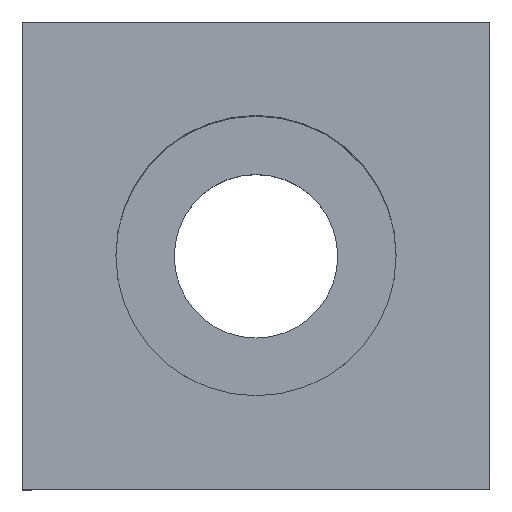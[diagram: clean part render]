
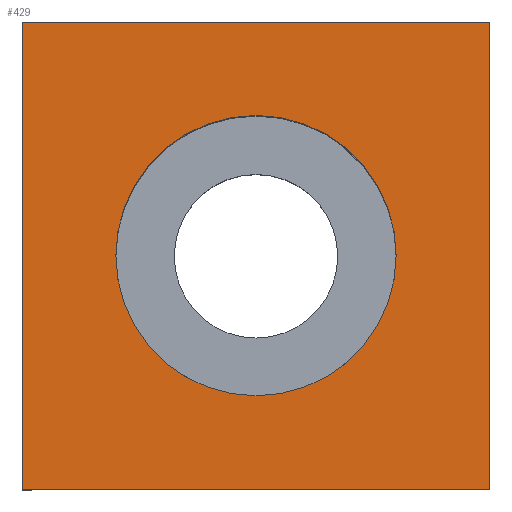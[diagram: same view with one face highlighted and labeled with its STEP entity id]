
A CAD part, top view. The second image highlights one B-rep face of the part: STEP entity #429.
In plain terms, the highlighted planar face has unit normal (0, 0, 1).
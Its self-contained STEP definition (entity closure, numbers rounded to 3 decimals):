
#5 = VECTOR ( 'NONE', #188, 1000. ) ;
#8 = CARTESIAN_POINT ( 'NONE',  ( 322.437, 336.497, 20. ) ) ;
#30 = CARTESIAN_POINT ( 'NONE',  ( 302.437, 336.497, 20. ) ) ;
#42 = CARTESIAN_POINT ( 'NONE',  ( 322.437, 316.497, 20. ) ) ;
#96 = DIRECTION ( 'NONE',  ( 0., 0., -1. ) ) ;
#144 = EDGE_CURVE ( 'NONE', #250, #862, #513, .T. ) ;
#188 = DIRECTION ( 'NONE',  ( -1., 0., 0. ) ) ;
#218 = ORIENTED_EDGE ( 'NONE', *, *, #710, .T. ) ;
#250 = VERTEX_POINT ( 'NONE', #861 ) ;
#264 = CARTESIAN_POINT ( 'NONE',  ( 318.437, 326.497, 20. ) ) ;
#312 = ORIENTED_EDGE ( 'NONE', *, *, #872, .F. ) ;
#315 = DIRECTION ( 'NONE',  ( 1., 0., 0. ) ) ;
#320 = CARTESIAN_POINT ( 'NONE',  ( 306.437, 326.497, 20. ) ) ;
#328 = VERTEX_POINT ( 'NONE', #264 ) ;
#344 = CARTESIAN_POINT ( 'NONE',  ( 312.437, 326.497, 20. ) ) ;
#353 = FACE_OUTER_BOUND ( 'NONE', #576, .T. ) ;
#374 = LINE ( 'NONE', #682, #877 ) ;
#390 = DIRECTION ( 'NONE',  ( 1., 0., 0. ) ) ;
#396 = DIRECTION ( 'NONE',  ( 0., -1., 0. ) ) ;
#429 = ADVANCED_FACE ( 'NONE', ( #353, #702 ), #864, .T. ) ;
#437 = EDGE_CURVE ( 'NONE', #894, #250, #534, .T. ) ;
#440 = LINE ( 'NONE', #42, #5 ) ;
#446 = ORIENTED_EDGE ( 'NONE', *, *, #744, .T. ) ;
#453 = CARTESIAN_POINT ( 'NONE',  ( 302.437, 316.497, 20. ) ) ;
#477 = DIRECTION ( 'NONE',  ( 1., 0., 0. ) ) ;
#513 = LINE ( 'NONE', #8, #668 ) ;
#534 = LINE ( 'NONE', #833, #853 ) ;
#539 = CARTESIAN_POINT ( 'NONE',  ( 312.437, 326.497, 20. ) ) ;
#541 = VERTEX_POINT ( 'NONE', #320 ) ;
#560 = DIRECTION ( 'NONE',  ( 0., 0., 1. ) ) ;
#576 = EDGE_LOOP ( 'NONE', ( #446, #312, #879, #585 ) ) ;
#585 = ORIENTED_EDGE ( 'NONE', *, *, #437, .F. ) ;
#588 = AXIS2_PLACEMENT_3D ( 'NONE', #759, #686, #477 ) ;
#616 = DIRECTION ( 'NONE',  ( 1., 0., 0. ) ) ;
#668 = VECTOR ( 'NONE', #747, 1000. ) ;
#682 = CARTESIAN_POINT ( 'NONE',  ( 302.437, 326.497, 20. ) ) ;
#686 = DIRECTION ( 'NONE',  ( 0., 0., -1. ) ) ;
#702 = FACE_BOUND ( 'NONE', #786, .T. ) ;
#710 = EDGE_CURVE ( 'NONE', #328, #541, #774, .T. ) ;
#723 = CARTESIAN_POINT ( 'NONE',  ( 322.437, 316.497, 20. ) ) ;
#729 = EDGE_CURVE ( 'NONE', #541, #328, #733, .T. ) ;
#733 = CIRCLE ( 'NONE', #911, 6. ) ;
#738 = ORIENTED_EDGE ( 'NONE', *, *, #729, .T. ) ;
#744 = EDGE_CURVE ( 'NONE', #894, #796, #374, .T. ) ;
#747 = DIRECTION ( 'NONE',  ( 0., -1., 0. ) ) ;
#759 = CARTESIAN_POINT ( 'NONE',  ( 312.437, 326.497, 20. ) ) ;
#774 = CIRCLE ( 'NONE', #588, 6. ) ;
#786 = EDGE_LOOP ( 'NONE', ( #218, #738 ) ) ;
#796 = VERTEX_POINT ( 'NONE', #453 ) ;
#815 = AXIS2_PLACEMENT_3D ( 'NONE', #344, #560, #315 ) ;
#833 = CARTESIAN_POINT ( 'NONE',  ( 302.437, 336.497, 20. ) ) ;
#853 = VECTOR ( 'NONE', #390, 1000. ) ;
#861 = CARTESIAN_POINT ( 'NONE',  ( 322.437, 336.497, 20. ) ) ;
#862 = VERTEX_POINT ( 'NONE', #723 ) ;
#864 = PLANE ( 'NONE',  #815 ) ;
#872 = EDGE_CURVE ( 'NONE', #862, #796, #440, .T. ) ;
#877 = VECTOR ( 'NONE', #396, 1000. ) ;
#879 = ORIENTED_EDGE ( 'NONE', *, *, #144, .F. ) ;
#894 = VERTEX_POINT ( 'NONE', #30 ) ;
#911 = AXIS2_PLACEMENT_3D ( 'NONE', #539, #96, #616 ) ;
